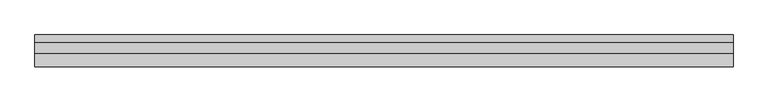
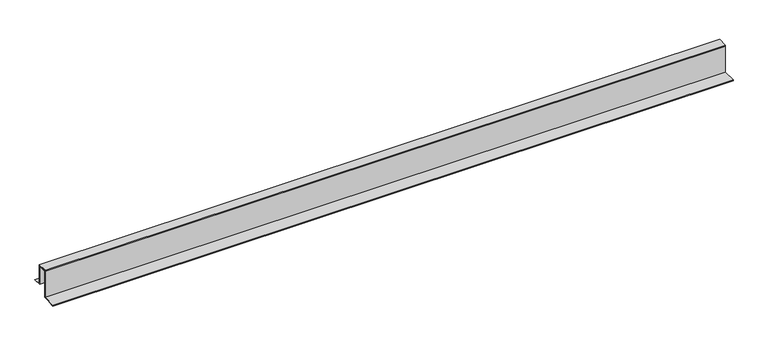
"""IFC4 building model written with IfcOpenShell, lengths in millimetres: proxy geometry, АК7_1 бок Обрамление оконного_дверного проема : АК7_1 бок Обрамление оконного_дверного проема."""

import ifcopenshell
import ifcopenshell.guid

model = None  # the IFC model being written
_history = None  # IfcOwnerHistory: only IFC2X3 demands one
_inside = {}  # id of a spatial element -> (the spatial element, [elements in it])
_under = {}  # id of a project, library or spatial element -> (it, [spatial elements below it])
_declared = {}  # id of a project -> (the project, [libraries it declares])
_typed = {}  # id of a type object -> (the type object, [elements of that type])
_made_of = {}  # id of a material, layer set ... -> (it, [elements and type objects made of it])


def new_model(schema):
    """Start an empty IFC model of exactly this schema.

    Asked for "IFC4X3", IfcOpenShell would pick the latest addendum, in which some entities
    have other attributes; the version numbers below select the first issue.
    IFC2X3 requires an IfcOwnerHistory on every rooted entity: one is made here for all.
    """
    global model, _history
    if schema == "IFC4X3":
        model = ifcopenshell.file(schema_version=(4, 3, 0, 0))
    else:
        model = ifcopenshell.file(schema=schema)
    _inside.clear()
    _under.clear()
    _declared.clear()
    _typed.clear()
    _made_of.clear()
    _history = None
    if model.schema == "IFC2X3":
        org = make("IfcOrganization", Name="unknown")
        user = make(
            "IfcPersonAndOrganization",
            ThePerson=make("IfcPerson", FamilyName="unknown"),
            TheOrganization=org,
        )
        app = make(
            "IfcApplication",
            ApplicationDeveloper=org,
            Version="unknown",
            ApplicationFullName="unknown",
            ApplicationIdentifier="unknown",
        )
        _history = make(
            "IfcOwnerHistory",
            OwningUser=user,
            OwningApplication=app,
            ChangeAction="ADDED",
            CreationDate=0,
        )
    return model


def make(cls, **values):
    """One entity of the class cls with the attributes given. An attribute that is None is left unset."""
    return model.create_entity(
        cls, **{name: value for name, value in values.items() if value is not None}
    )


def rooted(cls, **values):
    """An entity with a GlobalId (a new one), such as an element, a storey or a relation."""
    return make(cls, GlobalId=ifcopenshell.guid.new(), OwnerHistory=_history, **values)


def si_unit(unit_type, name, prefix=None):
    """IfcSIUnit, for example si_unit("LENGTHUNIT", "METRE", prefix="MILLI")."""
    return make("IfcSIUnit", UnitType=unit_type, Prefix=prefix, Name=name)


def assignment(units):
    """IfcUnitAssignment: the units of a project."""
    return None if units is None else make("IfcUnitAssignment", Units=units)


def point(xyz):
    """IfcCartesianPoint."""
    return None if xyz is None else make("IfcCartesianPoint", Coordinates=xyz)


def direction(xyz):
    """IfcDirection."""
    return None if xyz is None else make("IfcDirection", DirectionRatios=xyz)


def frame(location, z_axis=None, x_axis=None):
    """IfcAxis2Placement3D, a coordinate frame: its origin and axes. An axis left out is left unset."""
    return make(
        "IfcAxis2Placement3D",
        Location=point(location),
        Axis=direction(z_axis),
        RefDirection=direction(x_axis),
    )


def origin():
    """The frame at (0, 0, 0) with its axes left unset."""
    return frame((0.0, 0.0, 0.0))


def place(relative_to, where):
    """IfcLocalPlacement: puts the frame where relative to a parent placement (None: the world)."""
    return make(
        "IfcLocalPlacement", PlacementRelTo=relative_to, RelativePlacement=where
    )


def context(
    kind, dimensions, precision=None, world=None, true_north=None, identifier=None
):
    """IfcGeometricRepresentationContext, for example the 3D "Model" context."""
    return make(
        "IfcGeometricRepresentationContext",
        ContextIdentifier=identifier,
        ContextType=kind,
        CoordinateSpaceDimension=dimensions,
        Precision=precision,
        WorldCoordinateSystem=world,
        TrueNorth=true_north,
    )


def project(units=None, contexts=None):
    """IfcProject with its units and contexts."""
    return rooted(
        "IfcProject",
        Name="project",
        RepresentationContexts=contexts,
        UnitsInContext=assignment(units),
    )


def spatial(cls, under=None, at=None, **own):
    """A site, building, storey or space (cls), placed at a placement, below another one or the project."""
    s = rooted(cls, ObjectPlacement=at, **own)
    if under is not None:
        _under.setdefault(under.id(), (under, []))[1].append(s)
    return s


def polyline(points):
    """IfcPolyline through the points."""
    return make("IfcPolyline", Points=[point(p) for p in points])


def outline(outer, holes=None, kind="AREA"):
    """IfcArbitraryClosedProfileDef: a profile drawn as a closed curve; with holes, ...WithVoids."""
    if holes is None:
        return make("IfcArbitraryClosedProfileDef", ProfileType=kind, OuterCurve=outer)
    return make(
        "IfcArbitraryProfileDefWithVoids",
        ProfileType=kind,
        OuterCurve=outer,
        InnerCurves=holes,
    )


def extrude(swept, where, along, depth):
    """IfcExtrudedAreaSolid: the profile swept, set in the frame where, extruded along a direction by depth."""
    return make(
        "IfcExtrudedAreaSolid",
        SweptArea=swept,
        Position=where,
        ExtrudedDirection=direction(along),
        Depth=depth,
    )


def shape(context_of_items, identifier, shape_type, items):
    """IfcShapeRepresentation: the items that make up one representation, for example the "Body"."""
    return make(
        "IfcShapeRepresentation",
        ContextOfItems=context_of_items,
        RepresentationIdentifier=identifier,
        RepresentationType=shape_type,
        Items=items,
    )


def source(mapping_origin, context_of_items, identifier, shape_type, items):
    """IfcRepresentationMap: a shape defined once, which mapped items show again and again."""
    return make(
        "IfcRepresentationMap",
        MappingOrigin=mapping_origin,
        MappedRepresentation=shape(context_of_items, identifier, shape_type, items),
    )


def transform(
    local_origin,
    x_axis=None,
    y_axis=None,
    z_axis=None,
    scale=None,
    scale2=None,
    scale3=None,
    uniform=True,
):
    """IfcCartesianTransformationOperator3D, or its non-uniform kind. x_axis, y_axis, z_axis: its Axis1, 2, 3."""
    if uniform:
        return make(
            "IfcCartesianTransformationOperator3D",
            Axis1=direction(x_axis),
            Axis2=direction(y_axis),
            LocalOrigin=point(local_origin),
            Scale=scale,
            Axis3=direction(z_axis),
        )
    return make(
        "IfcCartesianTransformationOperator3DnonUniform",
        Axis1=direction(x_axis),
        Axis2=direction(y_axis),
        LocalOrigin=point(local_origin),
        Scale=scale,
        Axis3=direction(z_axis),
        Scale2=scale2,
        Scale3=scale3,
    )


def mapped(mapping_source, mapping_target):
    """IfcMappedItem: shows the shape of a source again, moved by a transform."""
    return make(
        "IfcMappedItem", MappingSource=mapping_source, MappingTarget=mapping_target
    )


def made_of(thing, what):
    """Note that an element or type object is made of a material, layer set ...; save() writes the relation."""
    if what is not None:
        _made_of.setdefault(what.id(), (what, []))[1].append(thing)
    return thing


def element(
    cls,
    number,
    at=None,
    inside=None,
    cuts=None,
    type_object=None,
    material=None,
    context=None,
    identifier="Body",
    shape_type=None,
    held_by="IfcProductDefinitionShape",
    body=None,
    shapes=None,
    **own,
):
    """One element of the class cls, such as IfcWall. Its Tag is "e" and its number.

    at: its placement. inside: the storey or other place that contains it. cuts: it is an
    opening in that element (IfcRelVoidsElement). A single representation is given by context,
    identifier, shape_type and body (its items); several are given by shapes. held_by: the class
    of the entity that holds the representations. save() writes the other relations.
    """
    e = rooted(cls, Tag="e%d" % number, ObjectPlacement=at, **own)
    if body is not None:
        shapes = [shape(context, identifier, shape_type, body)]
    if shapes is not None:
        e.Representation = make(held_by, Representations=shapes)
    if inside is not None:
        _inside.setdefault(inside.id(), (inside, []))[1].append(e)
    if cuts is not None:
        rooted(
            "IfcRelVoidsElement", RelatingBuildingElement=cuts, RelatedOpeningElement=e
        )
    if type_object is not None:
        _typed.setdefault(type_object.id(), (type_object, []))[1].append(e)
    return made_of(e, material)


def aggregate(whole, parts):
    """IfcRelAggregates: a whole, such as a stair, and the parts it consists of."""
    return rooted("IfcRelAggregates", RelatingObject=whole, RelatedObjects=parts)


def save(model, path):
    """Write the relations noted so far, then the file.

    IfcRelAggregates (storeys below a building ...), IfcRelContainedInSpatialStructure (elements
    in a storey), IfcRelDefinesByType, IfcRelAssociatesMaterial and IfcRelDeclares: one each for
    every whole, place, type object, material and project.
    """
    for whole, parts in _under.values():
        aggregate(whole, parts)
    for where, things in _inside.values():
        rooted(
            "IfcRelContainedInSpatialStructure",
            RelatedElements=things,
            RelatingStructure=where,
        )
    for kind, things in _typed.values():
        rooted("IfcRelDefinesByType", RelatedObjects=things, RelatingType=kind)
    for what, things in _made_of.values():
        rooted("IfcRelAssociatesMaterial", RelatedObjects=things, RelatingMaterial=what)
    for by, libraries in _declared.values():
        rooted("IfcRelDeclares", RelatingContext=by, RelatedDefinitions=libraries)
    model.write(path)


def generic_models_17419d64(model_context):
    return source(origin(), model_context, "Body", "SweptSolid", [
        extrude(outline(polyline([(-12.5, 25.0), (-12.5, -35.9999552), (10.5, -35.9999552), (10.5, -36.9999552), (-13.5, -36.9999552), (-13.5, 24.0), (-41.5, 24.0), (-41.5, 23.0), (-27.5, 23.0), (-27.5, 22.0), (-42.5, 22.0), (-42.5, 25.0), (-12.5, 25.0)])), frame((0.0, 0.0, 0.0), z_axis=(1.0, 0.0, 0.0), x_axis=(0.0, 1.0, 0.0)), (0.0, 0.0, 1.0), 2024.9876554),
        extrude(outline(polyline([(-42.5, -60.0), (-42.5, 22.0), (-17.5, 22.0), (-17.5, 21.0), (-41.5, 21.0), (-41.5, -61.0), (-81.5, -61.0), (-81.5, -62.0), (-62.5, -62.0), (-62.5, -63.0), (-82.5, -63.0), (-82.5, -60.0), (-42.5, -60.0)])), frame((0.0, 0.0, 0.0), z_axis=(1.0, 0.0, 0.0), x_axis=(0.0, 1.0, 0.0)), (0.0, 0.0, 1.0), 2024.9876554),
    ])


if __name__ == "__main__":
    model = new_model("IFC4")
    model_context = context("Model", 3, world=origin())
    ifc_project = project(units=[si_unit("LENGTHUNIT", "METRE", prefix="MILLI")], contexts=[model_context])
    site = spatial("IfcSite", under=ifc_project)
    building = spatial("IfcBuilding", under=site)
    placement = place(None, origin())
    generic_models_shape = generic_models_17419d64(model_context)
    element("IfcBuildingElementProxy", 1, Name="АК7_1 бок Обрамление оконного_дверного проема : АК7_1 бок Обрамление оконного_дверного проема", ObjectType="АК7_1 бок Обрамление оконного_дверного проема : АК7_1 бок Обрамление оконного_дверного проема", at=placement, inside=building, context=model_context, shape_type="MappedRepresentation", body=[
        mapped(generic_models_shape, transform((0.0, 0.0, 0.0), x_axis=(1.0, 0.0, 0.0), y_axis=(0.0, 1.0, 0.0), z_axis=(0.0, 0.0, 1.0))),
    ])
    save(model, "model.ifc")
